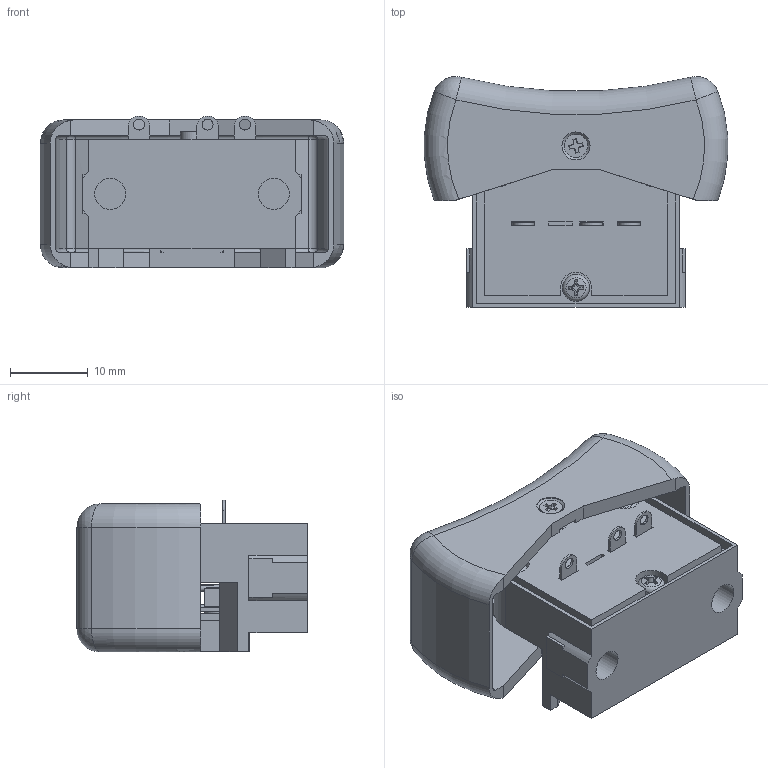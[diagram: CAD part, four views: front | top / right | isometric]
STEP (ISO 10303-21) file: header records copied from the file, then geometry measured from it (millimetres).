
FILE_DESCRIPTION (( 'STEP AP214' ), '1' );
FILE_NAME ('PW30 1 1 1 2 1 1.STEP', '2023-12-22T05:15:19', ( '' ), ( '' ), 'SwSTEP 2.0', 'SolidWorks 2021', '' );
FILE_SCHEMA (( 'AUTOMOTIVE_DESIGN' ));
Length unit declared in the file: millimetre
Products named in the file (1): PW30 1 1 1 2 1 1
Bounding box: 38.9 x 29.61 x 19.5 mm (x, y, z)
Volume: 7216.2 mm3; surface area: 9466.8 mm2
Topology: 1 solids, 14 shells, 535 faces, 1458 edges, 951 vertices
Faces by surface type: plane 329, cylinder 136, cone 39, torus 23, sphere 7, bspline 1
Full cylindrical faces by diameter (mm): 0.7 x4, 1 x5, 1.4 x6, 1.6 x5, 1.7 x3, 2 x6, 2.3 x3, 3 x8, 3.2 x1, 3.6 x3, 4 x2, 4.5 x2, 5.5 x2, 6.1 x1, 8 x2
Entity records: 16881 total; most frequent: CARTESIAN_POINT 3764, DIRECTION 2717, ORIENTED_EDGE 2630, EDGE_CURVE 1315, AXIS2_PLACEMENT_3D 927, VERTEX_POINT 890, VECTOR 863, LINE 863
